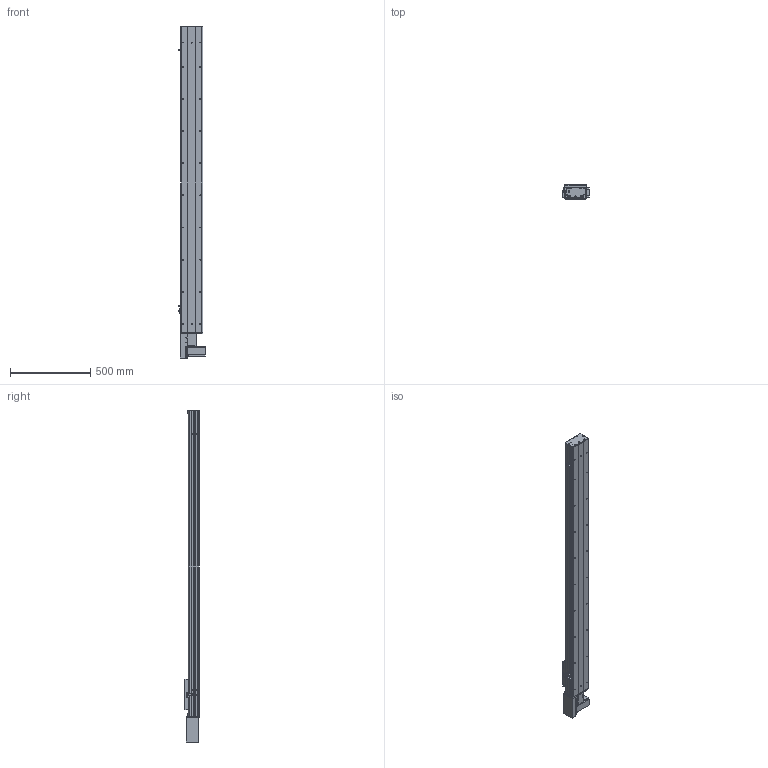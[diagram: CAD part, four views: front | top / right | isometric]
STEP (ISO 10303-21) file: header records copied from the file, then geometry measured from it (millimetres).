
FILE_DESCRIPTION (( 'STEP AP203' ), '1' );
FILE_NAME ('Y135CB-D90-S1600-BR-P400W.STEP', '2020-02-18T02:45:40', ( '微软用户' ), ( '微软中国' ), 'SwSTEP 2.0', 'SolidWorks 2017', '' );
FILE_SCHEMA (( 'CONFIG_CONTROL_DESIGN' ));
Length unit declared in the file: millimetre
Products named in the file (18): Y135CB-D90-S1600-BR-P400W; 5CB --掛极耜裔啣-; 135CB---遴掛极.-; C-詩湍揤踡え-陔; 35CB---喘謫眊楊擘啣; 135CB--詩湍-CE; Y10B-耜蚾蟀諉啣----; Y100-135俋离換覜ん--; Y俋欶BR----; Y135C-陔俋离換覜結え-; 0B-埴倛裔啣; 5C--俋欶; 0B-源倛裔啣; C-雄赽釱--; 0B-萇儂楊擘啣; Y10B--々湍喘謫眊--666; san松下电机400不带刹车----; Y135CB-耜裔
Assembly tree (21 placements, depth 2):
  Y135CB-D90-S1600-BR-P400W
    Y135CB-耜裔
    135CB---遴掛极.-
    35CB---喘謫眊楊擘啣
    Y10B-耜蚾蟀諉啣----
    Y俋欶BR----
    0B-埴倛裔啣
    0B-源倛裔啣
    0B-萇儂楊擘啣
    san松下电机400不带刹车----
    5CB --掛极耜裔啣-  x2
    C-詩湍揤踡え-陔  x2
    135CB--詩湍-CE
    Y100-135俋离換覜ん--  x3
    Y135C-陔俋离換覜結え-
    5C--俋欶
    C-雄赽釱--
    Y10B--々湍喘謫眊--666
Bounding box: 167.5 x 91 x 2064.5 mm (x, y, z)
Volume: 5945449.1 mm3; surface area: 2342838.8 mm2
Topology: 21 solids, 21 shells, 957 faces, 2581 edges, 1710 vertices
Faces by surface type: cylinder 483, plane 458, cone 16
Entity records: 29947 total; most frequent: DIRECTION 4973, CARTESIAN_POINT 4944, ORIENTED_EDGE 4638, EDGE_CURVE 2319, AXIS2_PLACEMENT_3D 1815, VERTEX_POINT 1538, LINE 1343, VECTOR 1343
